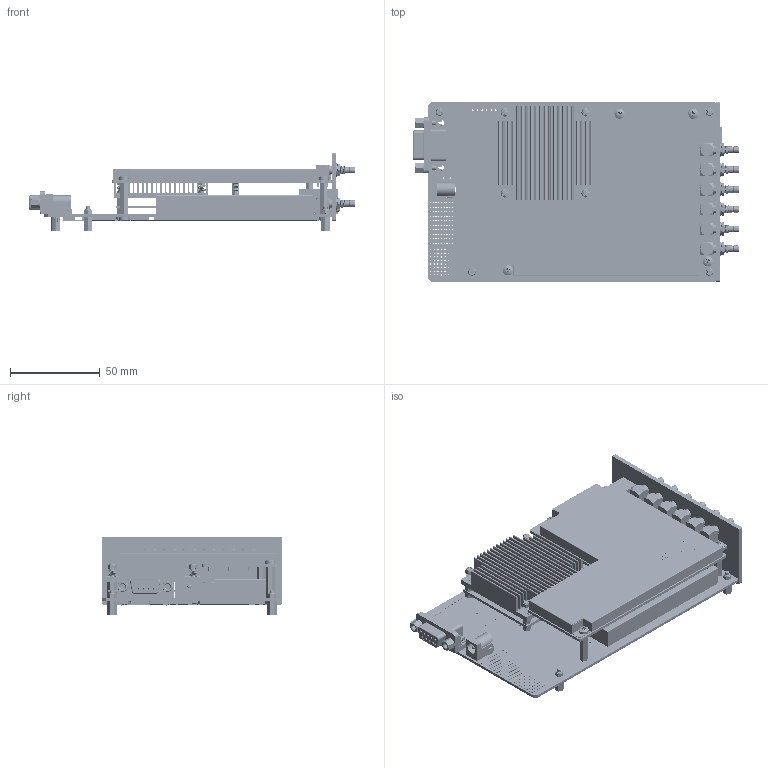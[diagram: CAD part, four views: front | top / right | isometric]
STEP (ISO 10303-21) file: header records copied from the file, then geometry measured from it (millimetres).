
FILE_DESCRIPTION(/* description */ (''),/* implementation_level */ '2;1');
FILE_NAME(/* name */ 'LIA_OE1311_单.stp',/* time_stamp */ '2023-11-24T15:18:53+08:00',/* author */ (''),/* organization */ (''),/* preprocessor_version */ 'ST-DEVELOPER v16',/* originating_system */ 'SIEMENS PLM Software NX 10.0',/* authorisation */ '');
FILE_SCHEMA (('AUTOMOTIVE_DESIGN { 1 0 10303 214 3 1 1 1 }'));
Products named in the file (25): 2.5mmx4mm copper column; Cooling Fin; GB_CROSS_SCREWS_TYPE1 M2.5X20-20  Z type-S; 2.5mmx3mm copper column; GB_CROSS_SCREWS_TYPE1 M3X6-6  Z type-S_step; LIA_PXIE_AUX_Shielding Case; LIA_PXIE_AUX_Buard; 2.1mm_DC_Power_Socket; 2.5mmx18mm copper column; RJ451_; LED-A694B; LIA_PXIE_Small Shield; LIA_PXIE_Shielding Case; DB9 - 203-09SCKKBE; TOP_SMB; LIA_PXIE_Board; Nut; Inner tooth gasket; DIN 985; Hexagonal stud M2.5x8+6; LIA_Front panel; LIA_PXIE_AUX; Core Board_MODEL; LIA_PXIE; LIA_OE1311_单板_stp
Assembly tree (80 placements, depth 4):
  LIA_OE1311_单板_stp
    LIA_PXIE
      LIA_PXIE_Board
      TOP_SMB  x4
      DB9 - 203-09SCKKBE
      LIA_PXIE_Shielding Case
      LIA_PXIE_Small Shield
      LED-A694B
      RJ451_
      2.5mmx18mm copper column  x4
      2.1mm_DC_Power_Socket
      Core Board_MODEL
        2.5mmx3mm copper column  x4
        GB_CROSS_SCREWS_TYPE1 M2.5X20-20  Z type-S  x4
        Cooling Fin
        2.5mmx4mm copper column  x4
        DIN 985  x4
    LIA_PXIE_AUX
      LIA_PXIE_AUX_Buard
      TOP_SMB  x6
      LIA_PXIE_AUX_Shielding Case
      GB_CROSS_SCREWS_TYPE1 M3X6-6  Z type-S_step  x8
    LIA_Front panel
    Hexagonal stud M2.5x8+6  x4
    DIN 985  x4
    Inner tooth gasket  x10
    Nut  x10
Bounding box: 181.34 x 100.04 x 43.8 mm (x, y, z)
Volume: 93470.7 mm3; surface area: 169985.3 mm2
Topology: 120 solids, 120 shells, 10350 faces, 25800 edges, 15866 vertices
Faces by surface type: plane 4634, cylinder 2348, cone 2166, bspline 1070, sphere 78, torus 54
Full cylindrical faces by diameter (mm): 0.7 x2, 0.75 x137, 0.762 x3, 0.889 x10, 0.9 x37, 0.96 x10, 1.016 x9, 1.02 x4, 1.1 x7, 1.199 x4, 1.2 x2, 1.5 x50, 1.651 x2, 1.8 x3, 2.05 x16, 2.2 x1, 2.286 x8, 2.7 x12, 2.8 x12, 3 x47, 3.1 x4, 3.175 x2, 3.302 x2, 3.45 x1, 3.5 x10, 5 x1, 6 x10, 6.3 x1
Entity records: 193617 total; most frequent: CARTESIAN_POINT 56100, ORIENTED_EDGE 27604, DIRECTION 25548, EDGE_CURVE 13802, LINE 10804, VECTOR 10804, VERTEX_POINT 8969, AXIS2_PLACEMENT_3D 7372
